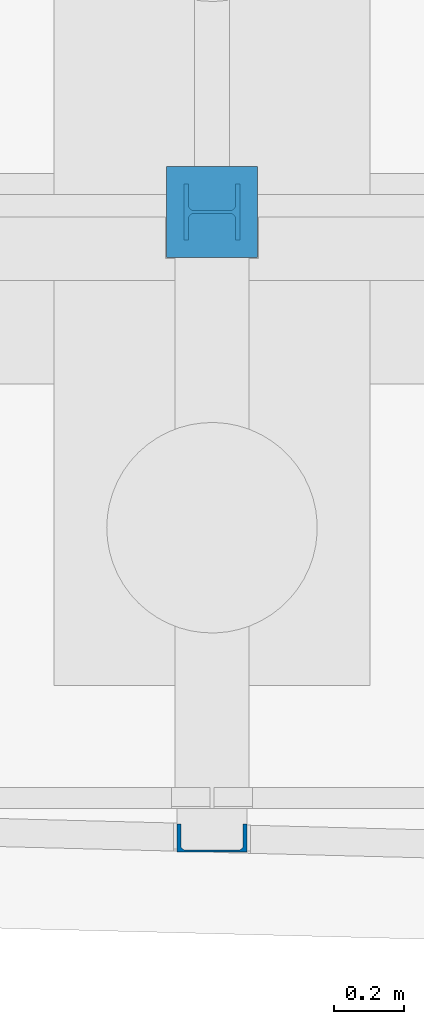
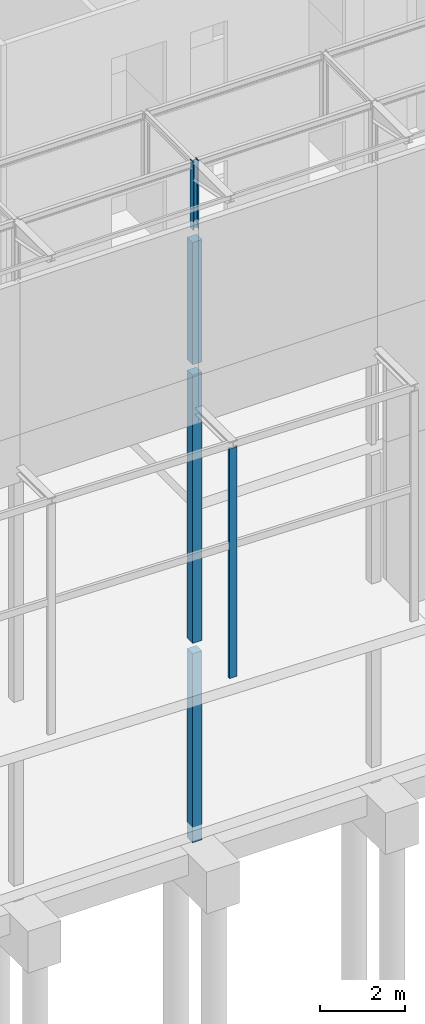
# One storey, part 40 of 82: 5 columns.
"""IFC2X3 building model written with IfcOpenShell, lengths in millimetres."""

import ifcopenshell
import ifcopenshell.guid

model = None  # the IFC model being written
_history = None  # IfcOwnerHistory: only IFC2X3 demands one
_inside = {}  # id of a spatial element -> (the spatial element, [elements in it])
_under = {}  # id of a project, library or spatial element -> (it, [spatial elements below it])
_declared = {}  # id of a project -> (the project, [libraries it declares])
_typed = {}  # id of a type object -> (the type object, [elements of that type])
_made_of = {}  # id of a material, layer set ... -> (it, [elements and type objects made of it])


def new_model(schema):
    """Start an empty IFC model of exactly this schema.

    Asked for "IFC4X3", IfcOpenShell would pick the latest addendum, in which some entities
    have other attributes; the version numbers below select the first issue.
    IFC2X3 requires an IfcOwnerHistory on every rooted entity: one is made here for all.
    """
    global model, _history
    if schema == "IFC4X3":
        model = ifcopenshell.file(schema_version=(4, 3, 0, 0))
    else:
        model = ifcopenshell.file(schema=schema)
    _inside.clear()
    _under.clear()
    _declared.clear()
    _typed.clear()
    _made_of.clear()
    _history = None
    if model.schema == "IFC2X3":
        org = make("IfcOrganization", Name="unknown")
        user = make(
            "IfcPersonAndOrganization",
            ThePerson=make("IfcPerson", FamilyName="unknown"),
            TheOrganization=org,
        )
        app = make(
            "IfcApplication",
            ApplicationDeveloper=org,
            Version="unknown",
            ApplicationFullName="unknown",
            ApplicationIdentifier="unknown",
        )
        _history = make(
            "IfcOwnerHistory",
            OwningUser=user,
            OwningApplication=app,
            ChangeAction="ADDED",
            CreationDate=0,
        )
    return model


def make(cls, **values):
    """One entity of the class cls with the attributes given. An attribute that is None is left unset."""
    return model.create_entity(
        cls, **{name: value for name, value in values.items() if value is not None}
    )


def rooted(cls, **values):
    """An entity with a GlobalId (a new one), such as an element, a storey or a relation."""
    return make(cls, GlobalId=ifcopenshell.guid.new(), OwnerHistory=_history, **values)


def si_unit(unit_type, name, prefix=None):
    """IfcSIUnit, for example si_unit("LENGTHUNIT", "METRE", prefix="MILLI")."""
    return make("IfcSIUnit", UnitType=unit_type, Prefix=prefix, Name=name)


def assignment(units):
    """IfcUnitAssignment: the units of a project."""
    return None if units is None else make("IfcUnitAssignment", Units=units)


def point(xyz):
    """IfcCartesianPoint."""
    return None if xyz is None else make("IfcCartesianPoint", Coordinates=xyz)


def direction(xyz):
    """IfcDirection."""
    return None if xyz is None else make("IfcDirection", DirectionRatios=xyz)


def frame(location, z_axis=None, x_axis=None):
    """IfcAxis2Placement3D, a coordinate frame: its origin and axes. An axis left out is left unset."""
    return make(
        "IfcAxis2Placement3D",
        Location=point(location),
        Axis=direction(z_axis),
        RefDirection=direction(x_axis),
    )


def frame_2d(location, x_axis=None):
    """IfcAxis2Placement2D, a coordinate frame in the plane: its origin and x axis."""
    return make(
        "IfcAxis2Placement2D", Location=point(location), RefDirection=direction(x_axis)
    )


def origin_with_axes():
    """The frame at (0, 0, 0) with the z axis (0, 0, 1) and the x axis (1, 0, 0) written out."""
    return frame((0.0, 0.0, 0.0), z_axis=(0.0, 0.0, 1.0), x_axis=(1.0, 0.0, 0.0))


def place(relative_to, where):
    """IfcLocalPlacement: puts the frame where relative to a parent placement (None: the world)."""
    return make(
        "IfcLocalPlacement", PlacementRelTo=relative_to, RelativePlacement=where
    )


def context(
    kind, dimensions, precision=None, world=None, true_north=None, identifier=None
):
    """IfcGeometricRepresentationContext, for example the 3D "Model" context."""
    return make(
        "IfcGeometricRepresentationContext",
        ContextIdentifier=identifier,
        ContextType=kind,
        CoordinateSpaceDimension=dimensions,
        Precision=precision,
        WorldCoordinateSystem=world,
        TrueNorth=true_north,
    )


def subcontext(parent, identifier, kind, view, scale=None):
    """IfcGeometricRepresentationSubContext, for example "Body" below "Model"."""
    return make(
        "IfcGeometricRepresentationSubContext",
        ContextIdentifier=identifier,
        ContextType=kind,
        ParentContext=parent,
        TargetScale=scale,
        TargetView=view,
    )


def project(units=None, contexts=None):
    """IfcProject with its units and contexts."""
    return rooted(
        "IfcProject",
        Name="project",
        RepresentationContexts=contexts,
        UnitsInContext=assignment(units),
    )


def spatial(cls, under=None, at=None, **own):
    """A site, building, storey or space (cls), placed at a placement, below another one or the project."""
    s = rooted(cls, ObjectPlacement=at, **own)
    if under is not None:
        _under.setdefault(under.id(), (under, []))[1].append(s)
    return s


def profile(cls, at=None, kind="AREA", **sizes):
    """A parametric profile (cls). Its sizes go by their IFC names, for example OverallWidth=200.0."""
    return make(cls, ProfileType=kind, Position=at, **sizes)


def rectangle(**sizes):
    """IfcRectangleProfileDef."""
    return profile("IfcRectangleProfileDef", **sizes)


def i_section(**sizes):
    """IfcIShapeProfileDef."""
    return profile("IfcIShapeProfileDef", **sizes)


def u_section(**sizes):
    """IfcUShapeProfileDef."""
    return profile("IfcUShapeProfileDef", **sizes)


def extrude(swept, where, along, depth):
    """IfcExtrudedAreaSolid: the profile swept, set in the frame where, extruded along a direction by depth."""
    return make(
        "IfcExtrudedAreaSolid",
        SweptArea=swept,
        Position=where,
        ExtrudedDirection=direction(along),
        Depth=depth,
    )


def shape(context_of_items, identifier, shape_type, items):
    """IfcShapeRepresentation: the items that make up one representation, for example the "Body"."""
    return make(
        "IfcShapeRepresentation",
        ContextOfItems=context_of_items,
        RepresentationIdentifier=identifier,
        RepresentationType=shape_type,
        Items=items,
    )


def material(Name=None, Category=None):
    """IfcMaterial."""
    return make("IfcMaterial", Name=Name, Category=Category)


def made_of(thing, what):
    """Note that an element or type object is made of a material, layer set ...; save() writes the relation."""
    if what is not None:
        _made_of.setdefault(what.id(), (what, []))[1].append(thing)
    return thing


def type_object(cls, material=None, **own):
    """A type object (cls), such as IfcWallType, which elements share."""
    return made_of(rooted(cls, **own), material)


def element(
    cls,
    number,
    at=None,
    inside=None,
    cuts=None,
    type_object=None,
    material=None,
    context=None,
    identifier="Body",
    shape_type=None,
    held_by="IfcProductDefinitionShape",
    body=None,
    shapes=None,
    **own,
):
    """One element of the class cls, such as IfcWall. Its Tag is "e" and its number.

    at: its placement. inside: the storey or other place that contains it. cuts: it is an
    opening in that element (IfcRelVoidsElement). A single representation is given by context,
    identifier, shape_type and body (its items); several are given by shapes. held_by: the class
    of the entity that holds the representations. save() writes the other relations.
    """
    e = rooted(cls, Tag="e%d" % number, ObjectPlacement=at, **own)
    if body is not None:
        shapes = [shape(context, identifier, shape_type, body)]
    if shapes is not None:
        e.Representation = make(held_by, Representations=shapes)
    if inside is not None:
        _inside.setdefault(inside.id(), (inside, []))[1].append(e)
    if cuts is not None:
        rooted(
            "IfcRelVoidsElement", RelatingBuildingElement=cuts, RelatedOpeningElement=e
        )
    if type_object is not None:
        _typed.setdefault(type_object.id(), (type_object, []))[1].append(e)
    return made_of(e, material)


def aggregate(whole, parts):
    """IfcRelAggregates: a whole, such as a stair, and the parts it consists of."""
    return rooted("IfcRelAggregates", RelatingObject=whole, RelatedObjects=parts)


def save(model, path):
    """Write the relations noted so far, then the file.

    IfcRelAggregates (storeys below a building ...), IfcRelContainedInSpatialStructure (elements
    in a storey), IfcRelDefinesByType, IfcRelAssociatesMaterial and IfcRelDeclares: one each for
    every whole, place, type object, material and project.
    """
    for whole, parts in _under.values():
        aggregate(whole, parts)
    for where, things in _inside.values():
        rooted(
            "IfcRelContainedInSpatialStructure",
            RelatedElements=things,
            RelatingStructure=where,
        )
    for kind, things in _typed.values():
        rooted("IfcRelDefinesByType", RelatedObjects=things, RelatingType=kind)
    for what, things in _made_of.values():
        rooted("IfcRelAssociatesMaterial", RelatedObjects=things, RelatingMaterial=what)
    for by, libraries in _declared.values():
        rooted("IfcRelDeclares", RelatingContext=by, RelatedDefinitions=libraries)
    model.write(path)


model = new_model("IFC2X3")

# Units and contexts
model_context = context("Model", 3, precision=1e-05, world=origin_with_axes())
body_context = subcontext(model_context, "Body", "Model", "MODEL_VIEW")
ifc_project = project(units=[si_unit("LENGTHUNIT", "METRE", prefix="MILLI"), si_unit("AREAUNIT", "SQUARE_METRE"), si_unit("VOLUMEUNIT", "CUBIC_METRE"), si_unit("MASSUNIT", "GRAM", prefix="KILO"), si_unit("TIMEUNIT", "SECOND"), si_unit("PLANEANGLEUNIT", "RADIAN"), si_unit("SOLIDANGLEUNIT", "STERADIAN"), si_unit("THERMODYNAMICTEMPERATUREUNIT", "DEGREE_CELSIUS"), si_unit("LUMINOUSINTENSITYUNIT", "LUMEN")], contexts=[model_context])

# Site, building, storey
site_placement = place(None, origin_with_axes())
site = spatial("IfcSite", under=ifc_project, at=site_placement, Name="Undefined", CompositionType="ELEMENT")
building_placement = place(site_placement, origin_with_axes())
building = spatial("IfcBuilding", under=site, at=building_placement, Name="Undefined", CompositionType="ELEMENT")
storey_placement = place(building_placement, origin_with_axes())
storey = spatial("IfcBuildingStorey", under=building, at=storey_placement, Name="Undefined", CompositionType="ELEMENT", Elevation=0.0)

# Columns
ifc_material_1 = material(Name="CONCRETE/C25/30")
column_type_1 = type_object("IfcColumnType", Name="260*260", PredefinedType="NOTDEFINED")
column_1_placement = place(storey_placement, frame((47099.9999999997, -4.59678801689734e-08, 13330.0), z_axis=(0.0, 0.0, 1.0), x_axis=(1.0, 0.0, 0.0)))
element("IfcColumn", 1, at=column_1_placement, inside=storey, type_object=column_type_1, material=ifc_material_1, Name="POTEAU", ObjectType="260*260", context=body_context, shape_type="SweptSolid", body=[
    extrude(rectangle(XDim=260.0, YDim=260.0, at=frame_2d((5.17284206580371e-08, 4.49290382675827e-10), x_axis=(1.0, 0.0))), frame((0.0, 0.0, 3529.99999999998), z_axis=(0.0, -6.50000002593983e-08, -0.999999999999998), x_axis=(-1.0, 0.0, 0.0)), (0.0, 0.0, 1.0), 3530.0),
])
column_2_placement = place(storey_placement, frame((47099.9999999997, -4.59678801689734e-08, 5300.0), z_axis=(0.0, 0.0, 1.0), x_axis=(1.0, 0.0, 0.0)))
element("IfcColumn", 2, at=column_2_placement, inside=storey, type_object=column_type_1, material=ifc_material_1, Name="POTEAU", ObjectType="260*260", context=body_context, shape_type="SweptSolid", body=[
    extrude(rectangle(XDim=260.0, YDim=260.0, at=frame_2d((5.17284206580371e-08, 4.49290382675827e-10), x_axis=(1.0, 0.0))), frame((0.0, 0.0, 7730.0), z_axis=(0.0, -6.50000002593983e-08, -0.999999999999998), x_axis=(-1.0, 0.0, 0.0)), (0.0, 0.0, 1.0), 7730.0),
])
column_3_placement = place(storey_placement, frame((47099.9999999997, -4.59678801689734e-08, -450.0), z_axis=(0.0, 0.0, 1.0), x_axis=(1.0, 0.0, 0.0)))
element("IfcColumn", 3, at=column_3_placement, inside=storey, type_object=column_type_1, material=ifc_material_1, Name="POTEAU", ObjectType="260*260", context=body_context, shape_type="SweptSolid", body=[
    extrude(rectangle(XDim=260.0, YDim=260.0, at=frame_2d((5.17284206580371e-08, 4.49290382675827e-10), x_axis=(1.0, 0.0))), frame((0.0, 0.0, 5450.00000000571), z_axis=(0.0, -6.50000002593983e-08, -0.999999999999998), x_axis=(-1.0, 0.0, 0.0)), (0.0, 0.0, 1.0), 5450.0),
])
ifc_material_2 = material(Name="STEEL/S275JR")
column_type_2 = type_object("IfcColumnType", Name="HEB160", PredefinedType="NOTDEFINED")
column_4_placement = place(storey_placement, frame((47100.0000000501, -8.4316269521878e-08, 17160.0), z_axis=(0.0, 0.0, 1.0), x_axis=(1.0, 0.0, 0.0)))
element("IfcColumn", 4, at=column_4_placement, inside=storey, type_object=column_type_2, material=ifc_material_2, Name="POTEAU", ObjectType="HEB160", context=body_context, shape_type="SweptSolid", body=[
    extrude(i_section(OverallWidth=160.0, OverallDepth=160.0, WebThickness=8.0, FlangeThickness=13.0, FilletRadius=15.0, at=frame_2d((5.17284206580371e-08, 4.49290382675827e-10), x_axis=(1.0, 0.0))), frame((0.0, 0.0, 1965.0), z_axis=(0.0, -6.50000002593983e-08, -0.999999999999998), x_axis=(-2.77555756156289e-17, -1.0, 0.0)), (0.0, 0.0, 1.0), 1965.0),
])
column_type_3 = type_object("IfcColumnType", Name="UPE200", PredefinedType="NOTDEFINED")
column_5_placement = place(storey_placement, frame((47099.9999988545, -1784.48235795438, 5300.0000000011), z_axis=(0.0, 0.0, 1.0), x_axis=(1.0, 0.0, 0.0)))
element("IfcColumn", 5, at=column_5_placement, inside=storey, type_object=column_type_3, material=ifc_material_2, Name="POUTRE", ObjectType="UPE200", context=body_context, shape_type="SweptSolid", body=[
    extrude(u_section(Depth=200.0, FlangeWidth=80.0, WebThickness=6.0, FlangeThickness=11.0, FilletRadius=13.0, at=frame_2d((5.17284206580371e-08, 4.49290382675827e-10), x_axis=(1.0, 0.0))), frame((0.0, 0.0, 6625.00000000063), z_axis=(0.0, -6.50000002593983e-08, -0.999999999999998), x_axis=(0.0, 1.0, 0.0)), (0.0, 0.0, 1.0), 6625.0),
])

save(model, "model.ifc")
